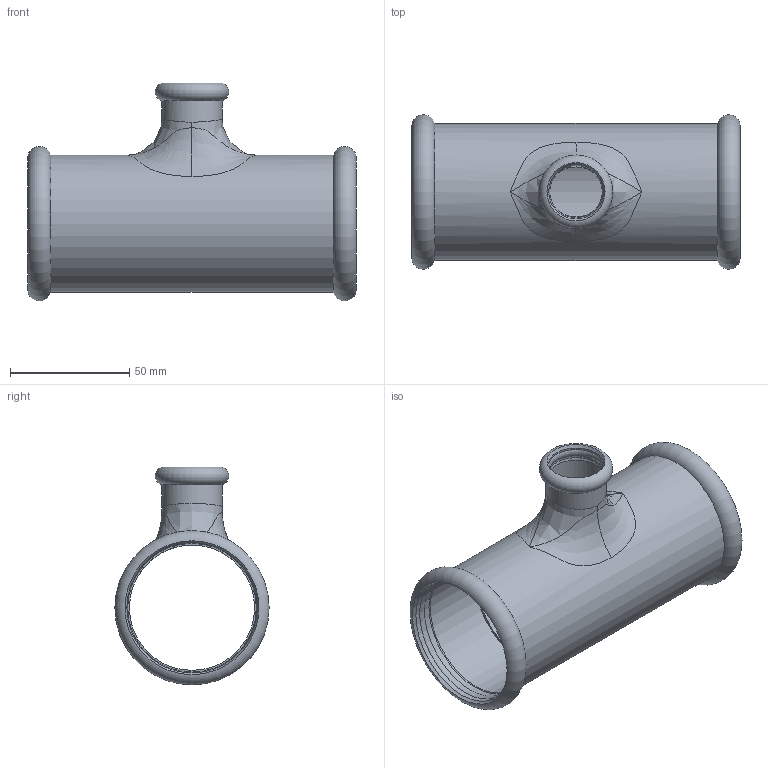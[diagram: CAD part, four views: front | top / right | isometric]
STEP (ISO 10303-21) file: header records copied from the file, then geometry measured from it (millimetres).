
FILE_DESCRIPTION(/* description */ ('TEE RIDOTTO STEELPRES 54-22-54 idroformato'),/* implementation_level */ '2;1');
FILE_NAME(/* name */ 'C:\Users\Vault\Desktop\392_STEELPRES\392054022_Steelpres.stp',/* time_stamp */ '2022-10-24T15:07:02+02:00',/* author */ ('Vault'),/* organization */ ('Raccorderie metalliche s.p.a. '),/* preprocessor_version */ 'ST-DEVELOPER v18.1',/* originating_system */ 'Autodesk Inventor 2020',/* authorisation */ 'Raccorderie metalliche s.p.a. ');
FILE_SCHEMA (('AUTOMOTIVE_DESIGN { 1 0 10303 214 3 1 1 }'));
Length unit declared in the file: millimetre
Products named in the file (1): 392054022I_Steelpres
Bounding box: 138 x 64.76 x 91.38 mm (x, y, z)
Volume: 60487.7 mm3; surface area: 54441.3 mm2
Topology: 1 solids, 1 shells, 40 faces, 133 edges, 87 vertices
Faces by surface type: cylinder 12, bspline 12, torus 9, plane 4, cone 3
Full cylindrical faces by diameter (mm): 22.3 x1, 22.9 x2, 25.3 x1, 52.6 x1, 54.5 x2, 54.7 x4, 57.5 x1
Entity records: 3315 total; most frequent: CARTESIAN_POINT 2180, ORIENTED_EDGE 250, DIRECTION 221, EDGE_CURVE 125, AXIS2_PLACEMENT_3D 103, VERTEX_POINT 87, CIRCLE 74, EDGE_LOOP 44
